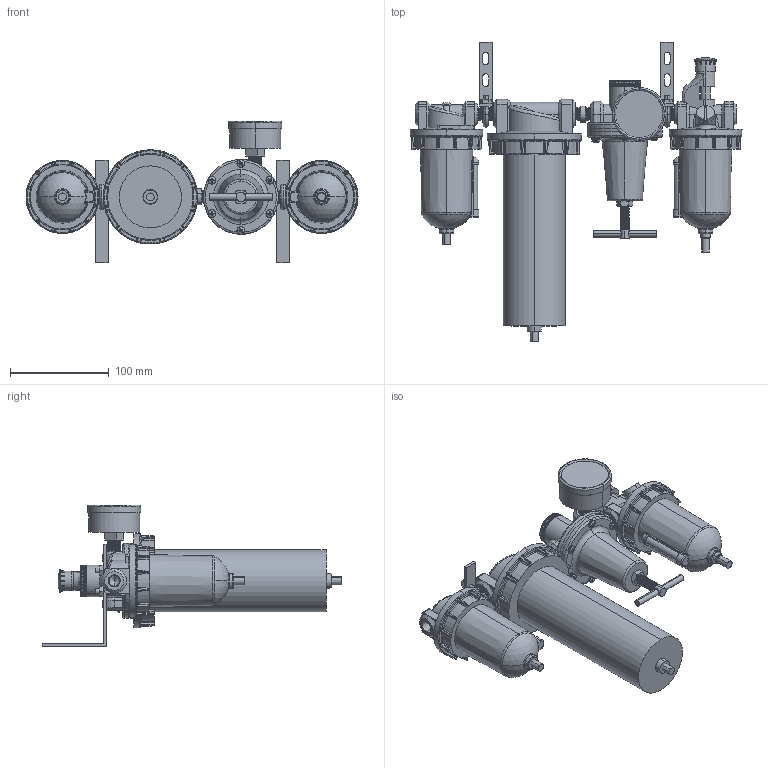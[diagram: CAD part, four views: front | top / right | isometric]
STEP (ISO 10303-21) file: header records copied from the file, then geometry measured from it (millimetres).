
FILE_DESCRIPTION (( 'STEP AP203' ), '1' );
FILE_NAME ('A728#W#-02YB#.STEP', '2016-01-14T17:47:25', ( '' ), ( '' ), 'SwSTEP 2.0', 'SolidWorks 2014', '' );
FILE_SCHEMA (( 'CONFIG_CONTROL_DESIGN' ));
Length unit declared in the file: millimetre
Products named in the file (28): F602-02-1; R119-02-無固定架; 50-P-AD=1-4PT-1; H604D-02YB#; 50-P-AD=1-4PT.SLDPRT; L型; 50-P-AD=1-4PT-2; L606-W-06-5; L606-W-04-1; R119-02-2; F602W-02#YB#; L606-W-02; L606-W-06-4; R119-02-7; F602-02(04)-上; ISO 7045 - M4 x 16; A728#W#-02YB#; R119-02-5; L606W-02; R119-02-4; 1-4-圓; R119-02-1; R119-02-3; H604D-02-1; L606W-02-刻度計; R119-02-6; L606-W-02-下半部; L606-W-06-3
Assembly tree (40 placements, depth 4):
  A728#W#-02YB#
    1-4-圓  x3
    F602W-02#YB#
      F602-02-1
      L606-W-06-5
      L606-W-02-下半部
      L606W-02-刻度計
    H604D-02YB#
      L606-W-06-5
      H604D-02-1
      F602-02(04)-上
    L606W-02
      L606-W-06-5
      L606-W-06-4
      L606-W-06-3  x2
      L606-W-04-1
      L606-W-02
      L606W-02-刻度計
    L型  x2
    R119-02-無固定架
      R119-02-1
      R119-02-2
      R119-02-3
      R119-02-4
      ISO 7045 - M4 x 16  x7
      R119-02-5
      R119-02-6
      R119-02-7
      50-P-AD=1-4PT.SLDPRT
        50-P-AD=1-4PT-1
        50-P-AD=1-4PT-2
Bounding box: 337 x 304.08 x 144 mm (x, y, z)
Volume: 1630769.4 mm3; surface area: 241591.3 mm2
Topology: 42 solids, 42 shells, 2159 faces, 5343 edges, 3197 vertices
Faces by surface type: plane 706, cylinder 461, cone 399, bspline 335, torus 148, sphere 110
Entity records: 74713 total; most frequent: CARTESIAN_POINT 33175, ORIENTED_EDGE 8658, DIRECTION 7321, EDGE_CURVE 4329, AXIS2_PLACEMENT_3D 3037, VERTEX_POINT 2619, EDGE_LOOP 1840, FACE_OUTER_BOUND 1787
